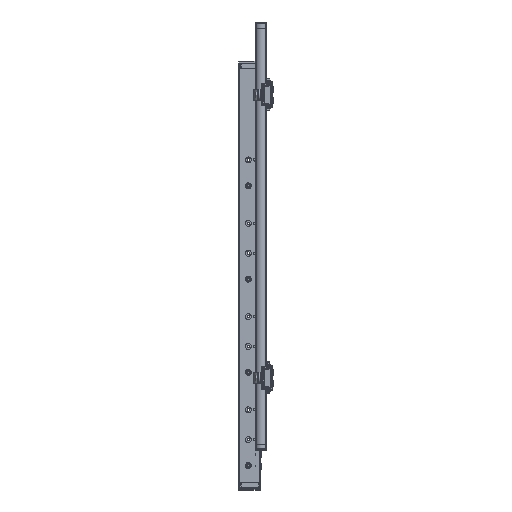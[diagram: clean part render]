
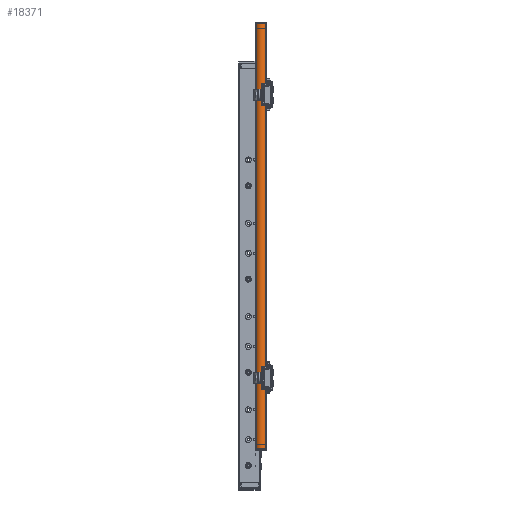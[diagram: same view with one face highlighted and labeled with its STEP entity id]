
A CAD part, left-side view. The second image highlights one B-rep face of the part: STEP entity #18371.
In plain terms, the highlighted cylindrical face has radius 15 mm (diameter 30 mm), a full revolution.
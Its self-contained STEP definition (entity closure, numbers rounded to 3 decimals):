
#938=CYLINDRICAL_SURFACE('',#20129,15.);
#2099=FACE_OUTER_BOUND('',#3297,.T.);
#3297=EDGE_LOOP('',(#16690,#16691,#16692,#16693));
#3851=CIRCLE('',#20130,15.);
#3852=CIRCLE('',#20131,15.);
#5783=LINE('',#30352,#7720);
#7720=VECTOR('',#24985,15.);
#9350=VERTEX_POINT('',#30349);
#9351=VERTEX_POINT('',#30351);
#11807=EDGE_CURVE('',#9350,#9350,#3851,.T.);
#11808=EDGE_CURVE('',#9350,#9351,#5783,.T.);
#11809=EDGE_CURVE('',#9351,#9351,#3852,.T.);
#16690=ORIENTED_EDGE('',*,*,#11807,.F.);
#16691=ORIENTED_EDGE('',*,*,#11808,.T.);
#16692=ORIENTED_EDGE('',*,*,#11809,.T.);
#16693=ORIENTED_EDGE('',*,*,#11808,.F.);
#18371=ADVANCED_FACE('',(#2099),#938,.T.);
#20129=AXIS2_PLACEMENT_3D('',#30348,#24981,#24982);
#20130=AXIS2_PLACEMENT_3D('',#30350,#24983,#24984);
#20131=AXIS2_PLACEMENT_3D('',#30353,#24986,#24987);
#24981=DIRECTION('center_axis',(0.,0.,1.));
#24982=DIRECTION('ref_axis',(1.,0.,0.));
#24983=DIRECTION('center_axis',(0.,0.,1.));
#24984=DIRECTION('ref_axis',(1.,0.,0.));
#24985=DIRECTION('',(0.,0.,-1.));
#24986=DIRECTION('center_axis',(0.,0.,1.));
#24987=DIRECTION('ref_axis',(1.,0.,0.));
#30348=CARTESIAN_POINT('Origin',(0.,0.,0.));
#30349=CARTESIAN_POINT('',(-15.,0.,1140.));
#30350=CARTESIAN_POINT('Origin',(0.,0.,1140.));
#30351=CARTESIAN_POINT('',(-15.,0.,0.));
#30352=CARTESIAN_POINT('',(-15.,0.,0.));
#30353=CARTESIAN_POINT('Origin',(0.,0.,0.));
